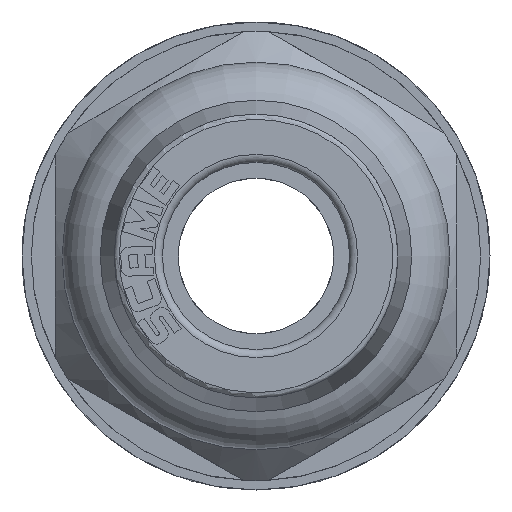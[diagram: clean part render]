
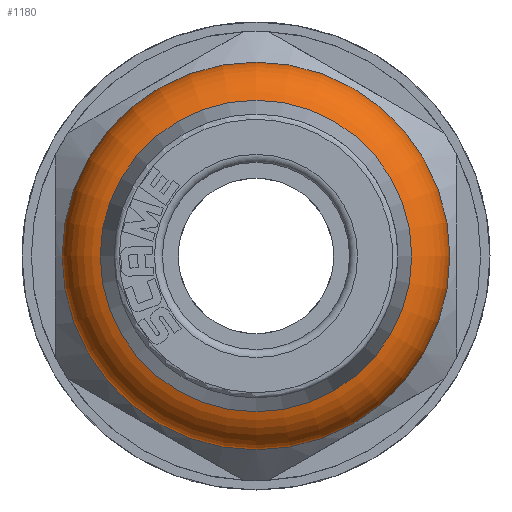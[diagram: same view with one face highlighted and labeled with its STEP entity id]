
A CAD part, left-side view. The second image highlights one B-rep face of the part: STEP entity #1180.
In plain terms, the highlighted toroidal (fillet/blend) face has major radius 5.248 mm and minor radius 2.002 mm.
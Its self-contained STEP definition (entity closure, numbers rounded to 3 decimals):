
#155=TOROIDAL_SURFACE('',#8934,5.248,2.002);
#874=CIRCLE('',#8932,7.25);
#875=CIRCLE('',#8933,5.825);
#1180=ADVANCED_FACE('',(#3147,#3148),#155,.T.);
#3147=FACE_BOUND('',#3471,.T.);
#3148=FACE_BOUND('',#3472,.T.);
#3471=EDGE_LOOP('',(#4940));
#3472=EDGE_LOOP('',(#4941));
#4940=ORIENTED_EDGE('',*,*,#7648,.F.);
#4941=ORIENTED_EDGE('',*,*,#7649,.T.);
#6656=VERTEX_POINT('',#27311);
#6657=VERTEX_POINT('',#27313);
#7648=EDGE_CURVE('',#6656,#6656,#874,.T.);
#7649=EDGE_CURVE('',#6657,#6657,#875,.T.);
#8932=AXIS2_PLACEMENT_3D('',#27310,#10307,#10308);
#8933=AXIS2_PLACEMENT_3D('',#27312,#10309,#10310);
#8934=AXIS2_PLACEMENT_3D('',#27314,#10311,#10312);
#10307=DIRECTION('',(1.,0.,0.));
#10308=DIRECTION('',(0.,1.,0.));
#10309=DIRECTION('',(1.,0.,0.));
#10310=DIRECTION('',(0.,1.,0.));
#10311=DIRECTION('',(1.,0.,0.));
#10312=DIRECTION('',(0.,1.,0.));
#27310=CARTESIAN_POINT('',(-27.5,0.,0.));
#27311=CARTESIAN_POINT('',(-27.5,7.25,0.));
#27312=CARTESIAN_POINT('',(-29.417,0.,0.));
#27313=CARTESIAN_POINT('',(-29.417,5.825,0.));
#27314=CARTESIAN_POINT('',(-27.5,0.,0.));
